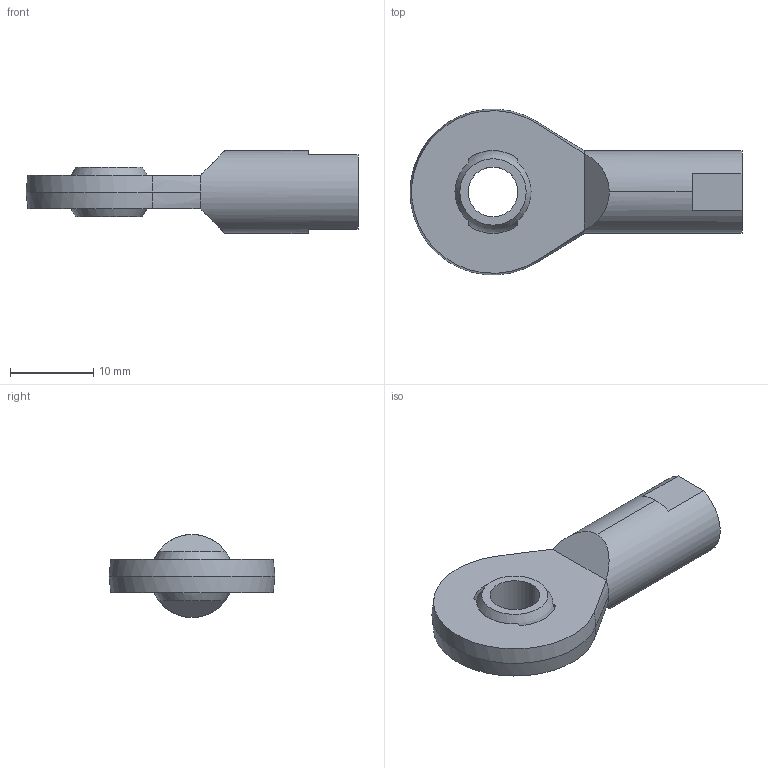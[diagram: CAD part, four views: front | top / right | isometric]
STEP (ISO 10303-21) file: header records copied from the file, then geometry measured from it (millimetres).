
FILE_DESCRIPTION (( 'STEP AP203' ), '1' );
FILE_NAME ('65880.W0106.step', '2014-02-06T18:34:21', ( 'User' ), ( '' ), 'SwSTEP 2.0', 'SolidWorks 2009', '' );
FILE_SCHEMA (( 'CONFIG_CONTROL_DESIGN' ));
Length unit declared in the file: millimetre
Products named in the file (3): Part1_65880.W0106; 65880.W0106; Part2_65880.W0106
Assembly tree (2 placements, depth 2):
  65880.W0106
    Part2_65880.W0106
    Part1_65880.W0106
Bounding box: 40 x 19.96 x 10 mm (x, y, z)
Volume: 2300.3 mm3; surface area: 2127.2 mm2
Topology: 2 solids, 2 shells, 45 faces, 108 edges, 67 vertices
Faces by surface type: plane 20, cylinder 10, sphere 8, cone 7
Entity records: 1624 total; most frequent: DIRECTION 253, CARTESIAN_POINT 253, ORIENTED_EDGE 208, AXIS2_PLACEMENT_3D 107, EDGE_CURVE 104, VERTEX_POINT 67, CIRCLE 57, EDGE_LOOP 53
